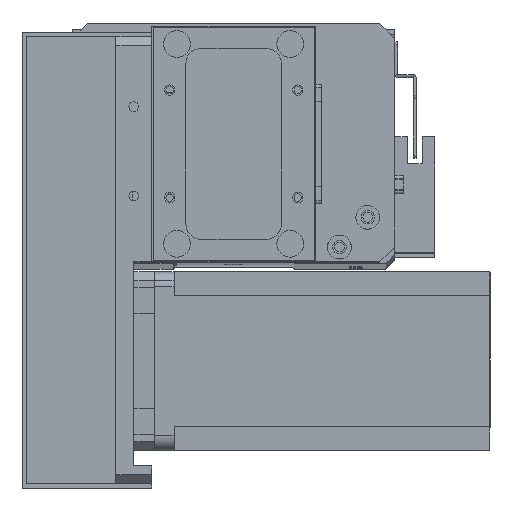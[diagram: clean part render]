
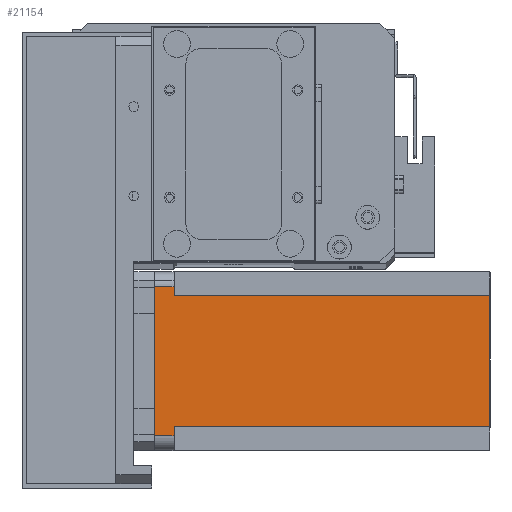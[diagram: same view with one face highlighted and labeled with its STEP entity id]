
A CAD part, top view. The second image highlights one B-rep face of the part: STEP entity #21154.
In plain terms, the highlighted planar face has unit normal (0, 0, 1) as drawn and (0, 1, 0) by its records, which use the part's own axes.
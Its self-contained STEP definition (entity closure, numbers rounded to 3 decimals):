
#64 = LINE ( 'NONE', #24341, #24588 ) ;
#67 = LINE ( 'NONE', #26908, #24590 ) ;
#100 = DIRECTION ( 'NONE',  ( 0., 0., -1. ) ) ;
#973 = LINE ( 'NONE', #14674, #25414 ) ;
#1437 = CARTESIAN_POINT ( 'NONE',  ( 0., 60., -112.5 ) ) ;
#1962 = CARTESIAN_POINT ( 'NONE',  ( 8., 60., -6.5 ) ) ;
#2989 = DIRECTION ( 'NONE',  ( 0., 0., -1. ) ) ;
#3621 = VECTOR ( 'NONE', #23284, 1000. ) ;
#3865 = PLANE ( 'NONE',  #13871 ) ;
#4058 = CARTESIAN_POINT ( 'NONE',  ( 5., 60., 0. ) ) ;
#4286 = DIRECTION ( 'NONE',  ( 0., 0., 1. ) ) ;
#4596 = ORIENTED_EDGE ( 'NONE', *, *, #10694, .T. ) ;
#5175 = VERTEX_POINT ( 'NONE', #29974 ) ;
#5357 = VECTOR ( 'NONE', #10685, 1000. ) ;
#5442 = EDGE_CURVE ( 'NONE', #9874, #29811, #15347, .T. ) ;
#7479 = CARTESIAN_POINT ( 'NONE',  ( 55., 60., 0. ) ) ;
#7829 = VERTEX_POINT ( 'NONE', #20661 ) ;
#8860 = EDGE_CURVE ( 'NONE', #11338, #10895, #27924, .T. ) ;
#8965 = VECTOR ( 'NONE', #23464, 1000. ) ;
#9874 = VERTEX_POINT ( 'NONE', #7479 ) ;
#10685 = DIRECTION ( 'NONE',  ( -1., 0., 0. ) ) ;
#10694 = EDGE_CURVE ( 'NONE', #11338, #29395, #64, .T. ) ;
#10861 = CARTESIAN_POINT ( 'NONE',  ( 8., 60., -6.5 ) ) ;
#10895 = VERTEX_POINT ( 'NONE', #29198 ) ;
#11242 = DIRECTION ( 'NONE',  ( 0., 0., 1. ) ) ;
#11269 = EDGE_LOOP ( 'NONE', ( #22465, #28204, #14978, #12485, #4596, #13409, #23490, #14560 ) ) ;
#11338 = VERTEX_POINT ( 'NONE', #15480 ) ;
#11602 = EDGE_CURVE ( 'NONE', #19966, #7829, #29533, .T. ) ;
#12113 = CARTESIAN_POINT ( 'NONE',  ( 8., 60., -112.5 ) ) ;
#12485 = ORIENTED_EDGE ( 'NONE', *, *, #8860, .F. ) ;
#13107 = DIRECTION ( 'NONE',  ( 1., 0., 0. ) ) ;
#13409 = ORIENTED_EDGE ( 'NONE', *, *, #15147, .F. ) ;
#13703 = VECTOR ( 'NONE', #4286, 1000. ) ;
#13871 = AXIS2_PLACEMENT_3D ( 'NONE', #1437, #25130, #11242 ) ;
#14560 = ORIENTED_EDGE ( 'NONE', *, *, #16573, .T. ) ;
#14674 = CARTESIAN_POINT ( 'NONE',  ( 55., 60., -112.5 ) ) ;
#14978 = ORIENTED_EDGE ( 'NONE', *, *, #15240, .F. ) ;
#15147 = EDGE_CURVE ( 'NONE', #19966, #29395, #21392, .T. ) ;
#15240 = EDGE_CURVE ( 'NONE', #10895, #5175, #67, .T. ) ;
#15285 = VECTOR ( 'NONE', #2989, 1000. ) ;
#15347 = LINE ( 'NONE', #23494, #8965 ) ;
#15480 = CARTESIAN_POINT ( 'NONE',  ( 52., 60., -112.5 ) ) ;
#16573 = EDGE_CURVE ( 'NONE', #7829, #29811, #19866, .T. ) ;
#18558 = CARTESIAN_POINT ( 'NONE',  ( 5., 60., -112.5 ) ) ;
#18768 = FACE_OUTER_BOUND ( 'NONE', #11269, .T. ) ;
#19716 = CARTESIAN_POINT ( 'NONE',  ( 8., 60., -112.5 ) ) ;
#19866 = LINE ( 'NONE', #18558, #13703 ) ;
#19966 = VERTEX_POINT ( 'NONE', #1962 ) ;
#20661 = CARTESIAN_POINT ( 'NONE',  ( 5., 60., -6.5 ) ) ;
#21154 = ADVANCED_FACE ( 'NONE', ( #18768 ), #3865, .T. ) ;
#21392 = LINE ( 'NONE', #19716, #15285 ) ;
#22465 = ORIENTED_EDGE ( 'NONE', *, *, #5442, .F. ) ;
#23284 = DIRECTION ( 'NONE',  ( 0., 0., 1. ) ) ;
#23464 = DIRECTION ( 'NONE',  ( -1., 0., 0. ) ) ;
#23490 = ORIENTED_EDGE ( 'NONE', *, *, #11602, .T. ) ;
#23494 = CARTESIAN_POINT ( 'NONE',  ( 0., 60., 0. ) ) ;
#23578 = CARTESIAN_POINT ( 'NONE',  ( 52., 60., -112.5 ) ) ;
#24164 = DIRECTION ( 'NONE',  ( -1., 0., 0. ) ) ;
#24341 = CARTESIAN_POINT ( 'NONE',  ( 0., 60., -112.5 ) ) ;
#24588 = VECTOR ( 'NONE', #24164, 1000. ) ;
#24590 = VECTOR ( 'NONE', #13107, 1000. ) ;
#25130 = DIRECTION ( 'NONE',  ( 0., 1., 0. ) ) ;
#25414 = VECTOR ( 'NONE', #100, 1000. ) ;
#26908 = CARTESIAN_POINT ( 'NONE',  ( 52., 60., -6.5 ) ) ;
#27924 = LINE ( 'NONE', #23578, #3621 ) ;
#28204 = ORIENTED_EDGE ( 'NONE', *, *, #29999, .T. ) ;
#29198 = CARTESIAN_POINT ( 'NONE',  ( 52., 60., -6.5 ) ) ;
#29395 = VERTEX_POINT ( 'NONE', #12113 ) ;
#29533 = LINE ( 'NONE', #10861, #5357 ) ;
#29811 = VERTEX_POINT ( 'NONE', #4058 ) ;
#29974 = CARTESIAN_POINT ( 'NONE',  ( 55., 60., -6.5 ) ) ;
#29999 = EDGE_CURVE ( 'NONE', #9874, #5175, #973, .T. ) ;
